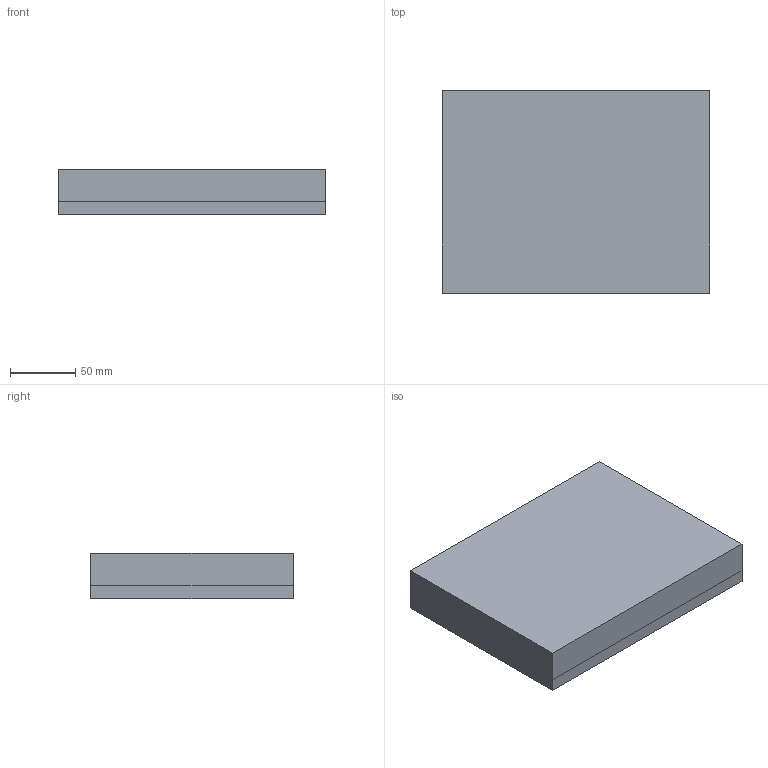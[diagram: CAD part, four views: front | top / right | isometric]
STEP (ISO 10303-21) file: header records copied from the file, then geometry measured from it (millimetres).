
FILE_DESCRIPTION(('CATIA V5 STEP Exchange'),'2;1');
FILE_NAME('C:\_Andres\UNIVERSIDAD\IQS\ASIGNATURAS\DAO\Controles\1920\c2\c2-Camacho_Lopez_Jordi.stp','2020-02-10T15:37:50+00:00',('none'),('none'),'CATIA Version 5 Release 19 SP 3 (IN-10)','CATIA V5 STEP AP203','none');
FILE_SCHEMA(('CONFIG_CONTROL_DESIGN'));
Length unit declared in the file: millimetre
Products named in the file (1): c2-Camacho_Lopez_Jordi
Bounding box: 205 x 155 x 35 mm (x, y, z)
Surface area: 218526 mm2
Topology: 3 solids, 3 shells, 103 faces, 232 edges, 128 vertices
Faces by surface type: cylinder 40, plane 27, bspline 24, sphere 12
Entity records: 3348 total; most frequent: CARTESIAN_POINT 1636, ORIENTED_EDGE 440, DIRECTION 224, EDGE_CURVE 164, EDGE_LOOP 110, ADVANCED_FACE 103, FACE_OUTER_BOUND 103, AXIS2_PLACEMENT_3D 96
